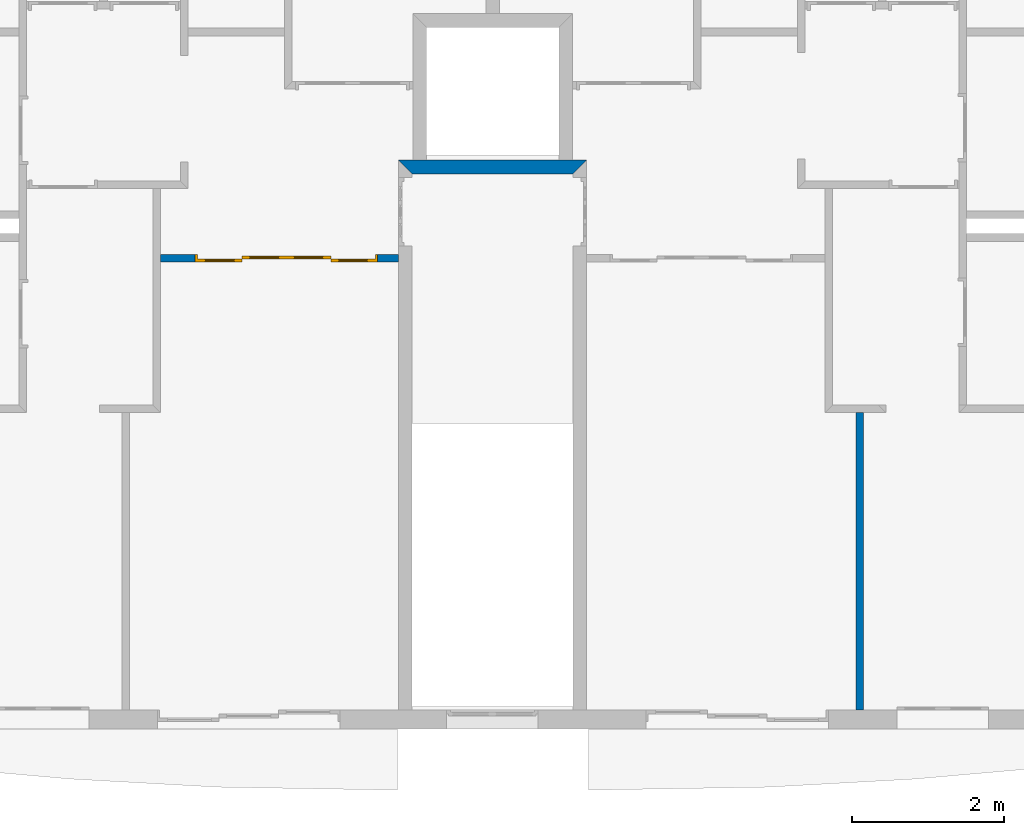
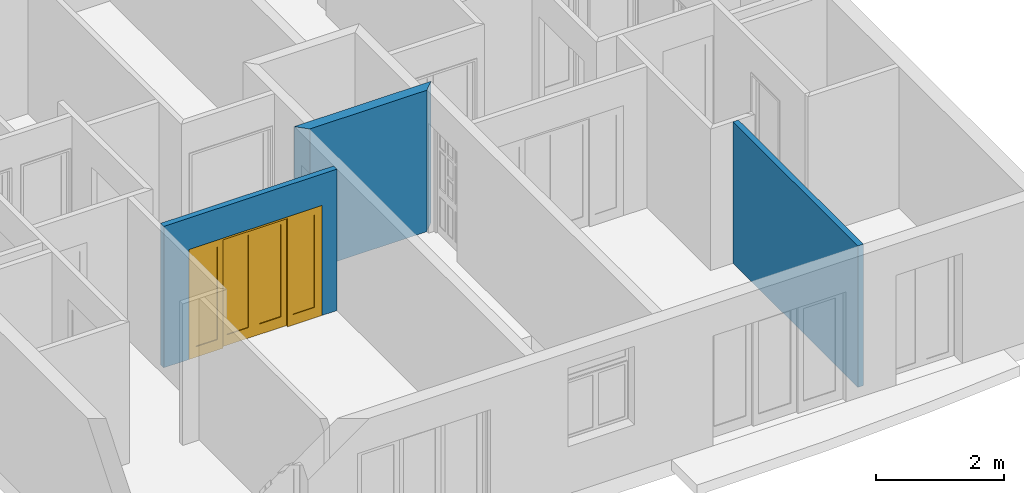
# One storey, part 6 of 12: 3 walls, 1 door, 1 opening.
"""IFC2X3 building model written with IfcOpenShell, lengths in metres."""

from ifc_helpers import new_model, entity, si_unit, converted_unit, direction, frame, frame_2d, origin_with_axes, place, context, project, spatial, polyline, rectangle, outline, extrude, faceted_brep, source, transform, mapped, material, layer, layer_set, layer_usage, type_object, element, fill, save


model = new_model("IFC2X3")

# Units and contexts
context_of_model = context(None, 3, precision=1e-05, world=origin_with_axes(), true_north=direction((6.123234e-17, 1.0)))
plan_context = context("Plan", 3, precision=1e-05, world=origin_with_axes(), true_north=direction((6.123234e-17, 1.0)))
model_context = context("Model", 3, precision=1e-05, world=origin_with_axes(), true_north=direction((6.123234e-17, 1.0)))
ifc_project = project(units=[si_unit("LENGTHUNIT", "METRE"), si_unit("AREAUNIT", "SQUARE_METRE"), si_unit("VOLUMEUNIT", "CUBIC_METRE"), converted_unit("PLANEANGLEUNIT", "DEGREE", entity("IfcPlaneAngleMeasure", 0.017453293), si_unit("PLANEANGLEUNIT", "RADIAN"), dimensions=[0, 0, 0, 0, 0, 0, 0]), si_unit("SOLIDANGLEUNIT", "STERADIAN"), si_unit("MASSUNIT", "GRAM"), si_unit("TIMEUNIT", "SECOND"), si_unit("THERMODYNAMICTEMPERATUREUNIT", "DEGREE_CELSIUS"), si_unit("LUMINOUSINTENSITYUNIT", "LUMEN")], contexts=[context_of_model, plan_context, model_context])

# Site, building, storey
site_placement = place(None, origin_with_axes())
site = spatial("IfcSite", under=ifc_project, at=site_placement, Name="Por defecto Sitio", CompositionType="ELEMENT")
building_placement = place(site_placement, origin_with_axes())
building = spatial("IfcBuilding", under=site, at=building_placement, Name="Por defecto Edificio", CompositionType="ELEMENT")
storey_placement = place(building_placement, frame((0.0, 0.0, 10.2), z_axis=(0.0, 0.0, 1.0), x_axis=(1.0, 0.0, 0.0)))
storey = spatial("IfcBuildingStorey", under=building, at=storey_placement, Name="Tercera", CompositionType="ELEMENT", Elevation=10.2)

# Walls
ifc_material = material(Name="Ladrillo común")
ifc_layer_1 = layer(ifc_material, 0.18, ventilated="UNKNOWN")
ifc_layer_set_1 = layer_set([ifc_layer_1], Name="Ladrillo común")
ifc_layer_usage_1 = layer_usage(ifc_layer_set_1, "AXIS2", "POSITIVE", 0.0)
wall_type_1 = type_object("IfcWallType", Name="Ladrillo común", PredefinedType="NOTDEFINED")
wall_1_placement = place(storey_placement, frame((6.9566603, 7.2976562, 0.0), z_axis=(0.0, 0.0, 1.0), x_axis=(1.0, 0.0, 0.0)))
element("IfcWallStandardCase", 1, at=wall_1_placement, inside=storey, type_object=wall_type_1, material=ifc_layer_usage_1, Name="Muro-009", context=context_of_model, shape_type="SweptSolid", body=[
    extrude(outline(polyline([(0.0, 0.0), (2.1125095, 0.0), (2.2925095, 0.18), (-0.18, 0.18), (0.0, 0.0)])), origin_with_axes(), (0.0, 0.0, 1.0), 2.7),
])
ifc_layer_2 = layer(ifc_material, 0.1, ventilated="UNKNOWN")
ifc_layer_set_2 = layer_set([ifc_layer_2], Name="Ladrillo común")
ifc_layer_usage_2 = layer_usage(ifc_layer_set_2, "AXIS2", "NEGATIVE", 0.0)
wall_type_2 = type_object("IfcWallType", Name="Ladrillo común", PredefinedType="NOTDEFINED")
wall_2_placement = place(storey_placement, frame((12.784859, -1.1368684e-13, 0.0), z_axis=(0.0, 0.0, 1.0), x_axis=(0.0, 1.0, 0.0)))
element("IfcWallStandardCase", 2, at=wall_2_placement, inside=storey, type_object=wall_type_2, material=ifc_layer_usage_2, Name="Muro-019", context=context_of_model, shape_type="SweptSolid", body=[
    extrude(outline(polyline([(0.25, -0.1), (4.1588613, -0.1), (4.1588613, 0.0), (0.25, 0.0), (0.25, -0.1)])), origin_with_axes(), (0.0, 0.0, 1.0), 2.7),
])

# Wall, opening, door
ifc_layer_usage_3 = layer_usage(ifc_layer_set_2, "AXIS2", "NEGATIVE", 0.05)
wall_3_placement = place(storey_placement, frame((6.9566603, 6.1881579, 0.0), z_axis=(0.0, 0.0, 1.0), x_axis=(-1.0, 0.0, 0.0)))
wall_3 = element("IfcWallStandardCase", 3, at=wall_3_placement, inside=storey, type_object=wall_type_2, material=ifc_layer_usage_3, Name="Muro-028", context=context_of_model, shape_type="SweptSolid", body=[
    extrude(outline(polyline([(0.18, -0.05), (3.3064951, -0.05), (3.3064951, 0.05), (0.18, 0.05), (0.18, -0.05)])), origin_with_axes(), (0.0, 0.0, 1.0), 2.7),
])
opening_placement = place(wall_3_placement, frame((1.6532475, -0.05, 0.0), z_axis=(0.0, 0.0, 1.0), x_axis=(1.0, 0.0, 0.0)))
opening = element("IfcOpeningElement", 4, at=opening_placement, cuts=wall_3, ObjectType="Opening", context=model_context, shape_type="SweptSolid", body=[
    extrude(rectangle(XDim=2.4, YDim=2.1, at=frame_2d((0.0, 1.05), x_axis=(-1.0, 0.0))), frame((0.0, 0.0, 0.0), z_axis=(0.0, 1.0, 0.0), x_axis=(-1.0, 0.0, 0.0)), (0.0, 0.0, 1.0), 0.1),
])
door_style = type_object("IfcDoorStyle", Name="P4 Corredera 12", ConstructionType="NOTDEFINED", OperationType="DOUBLE_DOOR_SLIDING", ParameterTakesPrecedence=False, Sizeable=False)
shared_shape = source(origin_with_axes(), model_context, "Body", "Brep", [
    faceted_brep([(2.368, 0.1, 0.0), (2.368, -8.8817842e-16, 0.0), (2.368, 0.0, 2.068), (2.368, 0.1, 2.068), (2.4, 0.1, 0.0), (2.4, -8.8817842e-16, 0.0), (2.4, 0.0, 2.068), (2.4, 0.1, 2.068)], [[[0, 1, 2, 3]], [[4, 5, 1, 0]], [[1, 5, 6, 2]], [[3, 2, 6, 7]], [[0, 3, 7, 4]], [[7, 6, 5, 4]]]),
    faceted_brep([(0.0, 0.1, 0.0), (0.0, 0.0, 0.0), (0.0, 0.0, 2.068), (0.0, 0.1, 2.068), (0.032, 0.1, 0.0), (0.032, 0.0, 0.0), (0.032, 0.0, 2.068), (0.032, 0.1, 2.068)], [[[0, 1, 2, 3]], [[4, 5, 1, 0]], [[1, 5, 6, 2]], [[3, 2, 6, 7]], [[0, 3, 7, 4]], [[7, 6, 5, 4]]]),
    faceted_brep([(2.4, 0.1, 2.1), (2.4, 0.0, 2.1), (2.4, 0.0, 2.068), (2.4, 0.1, 2.068), (0.0, 0.1, 2.1), (0.0, 0.0, 2.1), (0.0, 0.0, 2.068), (0.032, 0.0, 2.068), (2.368, 0.0, 2.068), (2.368, 0.1, 2.068), (0.032, 0.1, 2.068), (0.0, 0.1, 2.068)], [[[0, 1, 2, 3]], [[4, 5, 1, 0]], [[1, 5, 6, 7, 8, 2]], [[3, 2, 8, 9]], [[0, 3, 9, 10, 11, 4]], [[11, 6, 5, 4]], [[10, 7, 6, 11]], [[9, 8, 7, 10]]]),
    faceted_brep([(0.032, 0.1, 0.2), (0.132, 0.1, 0.2), (0.132, 0.06, 0.2), (0.032, 0.06, 0.2), (0.032, 0.1, 1.968), (0.132, 0.1, 1.968), (0.132, 0.06, 1.968), (0.032, 0.06, 1.968)], [[[0, 1, 2, 3]], [[0, 4, 5, 1]], [[1, 5, 6, 2]], [[3, 2, 6, 7]], [[4, 0, 3, 7]], [[5, 4, 7, 6]]]),
    faceted_brep([(0.616, 0.1, 0.2), (0.616, 0.1, 1.968), (0.616, 0.06, 1.968), (0.616, 0.06, 0.2), (0.516, 0.1, 0.2), (0.516, 0.1, 1.968), (0.516, 0.06, 1.968), (0.516, 0.06, 0.2)], [[[0, 1, 2, 3]], [[0, 4, 5, 1]], [[1, 5, 6, 2]], [[3, 2, 6, 7]], [[4, 0, 3, 7]], [[5, 4, 7, 6]]]),
    faceted_brep([(0.032, 0.1, 0.0), (0.616, 0.1, 0.0), (0.616, 0.06, 0.0), (0.032, 0.06, 0.0), (0.032, 0.1, 0.2), (0.132, 0.1, 0.2), (0.516, 0.1, 0.2), (0.616, 0.1, 0.2), (0.616, 0.06, 0.2), (0.516, 0.06, 0.2), (0.132, 0.06, 0.2), (0.032, 0.06, 0.2)], [[[0, 1, 2, 3]], [[0, 4, 5, 6, 7, 1]], [[1, 7, 8, 2]], [[3, 2, 8, 9, 10, 11]], [[4, 0, 3, 11]], [[5, 4, 11, 10]], [[6, 5, 10, 9]], [[7, 6, 9, 8]]]),
    faceted_brep([(0.032, 0.1, 2.068), (0.032, 0.1, 1.968), (0.032, 0.06, 1.968), (0.032, 0.06, 2.068), (0.616, 0.1, 2.068), (0.616, 0.1, 1.968), (0.516, 0.1, 1.968), (0.132, 0.1, 1.968), (0.132, 0.06, 1.968), (0.516, 0.06, 1.968), (0.616, 0.06, 1.968), (0.616, 0.06, 2.068)], [[[0, 1, 2, 3]], [[0, 4, 5, 6, 7, 1]], [[1, 7, 8, 2]], [[3, 2, 8, 9, 10, 11]], [[4, 0, 3, 11]], [[5, 4, 11, 10]], [[6, 5, 10, 9]], [[7, 6, 9, 8]]]),
    faceted_brep([(0.132, 0.086, 0.2), (0.516, 0.086, 0.2), (0.516, 0.074, 0.2), (0.132, 0.074, 0.2), (0.132, 0.086, 1.968), (0.516, 0.086, 1.968), (0.516, 0.074, 1.968), (0.132, 0.074, 1.968)], [[[0, 1, 2, 3]], [[0, 4, 5, 1]], [[1, 5, 6, 2]], [[3, 2, 6, 7]], [[4, 0, 3, 7]], [[5, 4, 7, 6]]]),
    faceted_brep([(2.368, 0.1, 0.2), (2.368, 0.06, 0.2), (2.268, 0.06, 0.2), (2.268, 0.1, 0.2), (2.368, 0.1, 1.968), (2.368, 0.06, 1.968), (2.268, 0.06, 1.968), (2.268, 0.1, 1.968)], [[[0, 1, 2, 3]], [[4, 5, 1, 0]], [[1, 5, 6, 2]], [[3, 2, 6, 7]], [[0, 3, 7, 4]], [[7, 6, 5, 4]]]),
    faceted_brep([(1.784, 0.1, 0.2), (1.784, 0.06, 0.2), (1.784, 0.06, 1.968), (1.784, 0.1, 1.968), (1.884, 0.1, 0.2), (1.884, 0.06, 0.2), (1.884, 0.06, 1.968), (1.884, 0.1, 1.968)], [[[0, 1, 2, 3]], [[4, 5, 1, 0]], [[1, 5, 6, 2]], [[3, 2, 6, 7]], [[0, 3, 7, 4]], [[7, 6, 5, 4]]]),
    faceted_brep([(2.368, 0.1, 0.0), (2.368, 0.06, 0.0), (1.784, 0.06, 0.0), (1.784, 0.1, 0.0), (2.368, 0.1, 0.2), (2.368, 0.06, 0.2), (2.268, 0.06, 0.2), (1.884, 0.06, 0.2), (1.784, 0.06, 0.2), (1.784, 0.1, 0.2), (1.884, 0.1, 0.2), (2.268, 0.1, 0.2)], [[[0, 1, 2, 3]], [[4, 5, 1, 0]], [[1, 5, 6, 7, 8, 2]], [[3, 2, 8, 9]], [[0, 3, 9, 10, 11, 4]], [[11, 6, 5, 4]], [[10, 7, 6, 11]], [[9, 8, 7, 10]]]),
    faceted_brep([(2.368, 0.1, 2.068), (2.368, 0.06, 2.068), (2.368, 0.06, 1.968), (2.368, 0.1, 1.968), (1.784, 0.1, 2.068), (1.784, 0.06, 2.068), (1.784, 0.06, 1.968), (1.884, 0.06, 1.968), (2.268, 0.06, 1.968), (2.268, 0.1, 1.968), (1.884, 0.1, 1.968), (1.784, 0.1, 1.968)], [[[0, 1, 2, 3]], [[4, 5, 1, 0]], [[1, 5, 6, 7, 8, 2]], [[3, 2, 8, 9]], [[0, 3, 9, 10, 11, 4]], [[11, 6, 5, 4]], [[10, 7, 6, 11]], [[9, 8, 7, 10]]]),
    faceted_brep([(2.268, 0.086, 0.2), (2.268, 0.074, 0.2), (1.884, 0.074, 0.2), (1.884, 0.086, 0.2), (2.268, 0.086, 1.968), (2.268, 0.074, 1.968), (1.884, 0.074, 1.968), (1.884, 0.086, 1.968)], [[[0, 1, 2, 3]], [[4, 5, 1, 0]], [[1, 5, 6, 2]], [[3, 2, 6, 7]], [[0, 3, 7, 4]], [[7, 6, 5, 4]]]),
    faceted_brep([(0.616, 0.06, 0.2), (0.716, 0.06, 0.2), (0.716, 0.02, 0.2), (0.616, 0.02, 0.2), (0.616, 0.06, 1.968), (0.716, 0.06, 1.968), (0.716, 0.02, 1.968), (0.616, 0.02, 1.968)], [[[0, 1, 2, 3]], [[0, 4, 5, 1]], [[1, 5, 6, 2]], [[3, 2, 6, 7]], [[4, 0, 3, 7]], [[5, 4, 7, 6]]]),
    faceted_brep([(1.2, 0.06, 0.2), (1.2, 0.06, 1.968), (1.2, 0.02, 1.968), (1.2, 0.02, 0.2), (1.1, 0.06, 0.2), (1.1, 0.06, 1.968), (1.1, 0.02, 1.968), (1.1, 0.02, 0.2)], [[[0, 1, 2, 3]], [[0, 4, 5, 1]], [[1, 5, 6, 2]], [[3, 2, 6, 7]], [[4, 0, 3, 7]], [[5, 4, 7, 6]]]),
    faceted_brep([(0.616, 0.06, 0.0), (1.2, 0.06, 0.0), (1.2, 0.02, 0.0), (0.616, 0.02, 0.0), (0.616, 0.06, 0.2), (0.716, 0.06, 0.2), (1.1, 0.06, 0.2), (1.2, 0.06, 0.2), (1.2, 0.02, 0.2), (1.1, 0.02, 0.2), (0.716, 0.02, 0.2), (0.616, 0.02, 0.2)], [[[0, 1, 2, 3]], [[0, 4, 5, 6, 7, 1]], [[1, 7, 8, 2]], [[3, 2, 8, 9, 10, 11]], [[4, 0, 3, 11]], [[5, 4, 11, 10]], [[6, 5, 10, 9]], [[7, 6, 9, 8]]]),
    faceted_brep([(0.616, 0.06, 2.068), (0.616, 0.06, 1.968), (0.616, 0.02, 1.968), (0.616, 0.02, 2.068), (1.2, 0.06, 2.068), (1.2, 0.06, 1.968), (1.1, 0.06, 1.968), (0.716, 0.06, 1.968), (0.716, 0.02, 1.968), (1.1, 0.02, 1.968), (1.2, 0.02, 1.968), (1.2, 0.02, 2.068)], [[[0, 1, 2, 3]], [[0, 4, 5, 6, 7, 1]], [[1, 7, 8, 2]], [[3, 2, 8, 9, 10, 11]], [[4, 0, 3, 11]], [[5, 4, 11, 10]], [[6, 5, 10, 9]], [[7, 6, 9, 8]]]),
    faceted_brep([(0.716, 0.046, 0.2), (1.1, 0.046, 0.2), (1.1, 0.034, 0.2), (0.716, 0.034, 0.2), (0.716, 0.046, 1.968), (1.1, 0.046, 1.968), (1.1, 0.034, 1.968), (0.716, 0.034, 1.968)], [[[0, 1, 2, 3]], [[0, 4, 5, 1]], [[1, 5, 6, 2]], [[3, 2, 6, 7]], [[4, 0, 3, 7]], [[5, 4, 7, 6]]]),
    faceted_brep([(1.784, 0.06, 0.2), (1.784, 0.02, 0.2), (1.684, 0.02, 0.2), (1.684, 0.06, 0.2), (1.784, 0.06, 1.968), (1.784, 0.02, 1.968), (1.684, 0.02, 1.968), (1.684, 0.06, 1.968)], [[[0, 1, 2, 3]], [[4, 5, 1, 0]], [[1, 5, 6, 2]], [[3, 2, 6, 7]], [[0, 3, 7, 4]], [[7, 6, 5, 4]]]),
    faceted_brep([(1.2, 0.06, 0.2), (1.2, 0.02, 0.2), (1.2, 0.02, 1.968), (1.2, 0.06, 1.968), (1.3, 0.06, 0.2), (1.3, 0.02, 0.2), (1.3, 0.02, 1.968), (1.3, 0.06, 1.968)], [[[0, 1, 2, 3]], [[4, 5, 1, 0]], [[1, 5, 6, 2]], [[3, 2, 6, 7]], [[0, 3, 7, 4]], [[7, 6, 5, 4]]]),
    faceted_brep([(1.784, 0.06, 0.0), (1.784, 0.02, 0.0), (1.2, 0.02, 0.0), (1.2, 0.06, 0.0), (1.784, 0.06, 0.2), (1.784, 0.02, 0.2), (1.684, 0.02, 0.2), (1.3, 0.02, 0.2), (1.2, 0.02, 0.2), (1.2, 0.06, 0.2), (1.3, 0.06, 0.2), (1.684, 0.06, 0.2)], [[[0, 1, 2, 3]], [[4, 5, 1, 0]], [[1, 5, 6, 7, 8, 2]], [[3, 2, 8, 9]], [[0, 3, 9, 10, 11, 4]], [[11, 6, 5, 4]], [[10, 7, 6, 11]], [[9, 8, 7, 10]]]),
    faceted_brep([(1.784, 0.06, 2.068), (1.784, 0.02, 2.068), (1.784, 0.02, 1.968), (1.784, 0.06, 1.968), (1.2, 0.06, 2.068), (1.2, 0.02, 2.068), (1.2, 0.02, 1.968), (1.3, 0.02, 1.968), (1.684, 0.02, 1.968), (1.684, 0.06, 1.968), (1.3, 0.06, 1.968), (1.2, 0.06, 1.968)], [[[0, 1, 2, 3]], [[4, 5, 1, 0]], [[1, 5, 6, 7, 8, 2]], [[3, 2, 8, 9]], [[0, 3, 9, 10, 11, 4]], [[11, 6, 5, 4]], [[10, 7, 6, 11]], [[9, 8, 7, 10]]]),
    faceted_brep([(1.684, 0.046, 0.2), (1.684, 0.034, 0.2), (1.3, 0.034, 0.2), (1.3, 0.046, 0.2), (1.684, 0.046, 1.968), (1.684, 0.034, 1.968), (1.3, 0.034, 1.968), (1.3, 0.046, 1.968)], [[[0, 1, 2, 3]], [[4, 5, 1, 0]], [[1, 5, 6, 2]], [[3, 2, 6, 7]], [[0, 3, 7, 4]], [[7, 6, 5, 4]]]),
])
door_placement = place(opening_placement, frame((-1.2, 0.0, 0.0), z_axis=(0.0, 0.0, 1.0), x_axis=(1.0, 0.0, 0.0)))
door = element("IfcDoor", 5, at=door_placement, inside=storey, type_object=door_style, Name="P21", OverallHeight=2.1, OverallWidth=2.4, context=model_context, shape_type="MappedRepresentation", body=[
    mapped(shared_shape, transform((0.0, 0.0, 0.0), scale=1.0)),
])
fill(opening, door)

save(model, "model.ifc")
